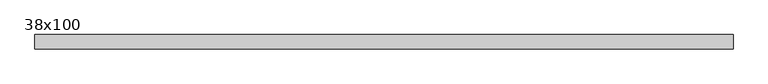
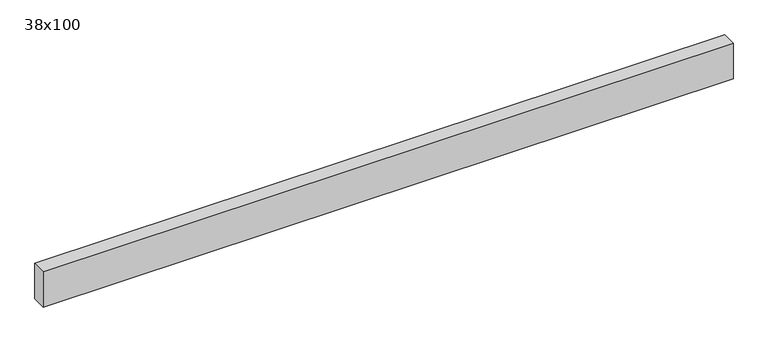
"""IFC4 building model written with IfcOpenShell, lengths in millimetres: beam geometry, Poutre - Bois de construction de dimensions courantes : 38x100."""

from ifc_helpers import new_model, si_unit, frame, origin, place, context, project, spatial, polyline, outline, extrude, source, transform, mapped, element, save


def beam_38x100_faabdca5(model_context):
    return source(origin(), model_context, "Body", "SweptSolid", [
        extrude(outline(polyline([(920.5, 19.05), (920.5, -19.05), (-920.5, -19.05), (-920.5, 19.05), (920.5, 19.05)])), frame((0.0, 0.0, -50.0), z_axis=(0.0, 0.0, 1.0), x_axis=(1.0, 0.0, 0.0)), (0.0, 0.0, 1.0), 100.0),
    ])


if __name__ == "__main__":
    model = new_model("IFC4")
    model_context = context("Model", 3, world=origin())
    ifc_project = project(units=[si_unit("LENGTHUNIT", "METRE", prefix="MILLI")], contexts=[model_context])
    site = spatial("IfcSite", under=ifc_project)
    building = spatial("IfcBuilding", under=site)
    placement = place(None, origin())
    beam_38x100_shape = beam_38x100_faabdca5(model_context)
    element("IfcBeam", 1, ObjectType="Poutre - Bois de construction de dimensions courantes : 38x100", at=placement, inside=building, context=model_context, shape_type="MappedRepresentation", body=[
        mapped(beam_38x100_shape, transform((0.0, 0.0, 0.0), x_axis=(1.0, 0.0, 0.0), y_axis=(0.0, 1.0, 0.0), z_axis=(0.0, 0.0, 1.0))),
    ])
    save(model, "model.ifc")
